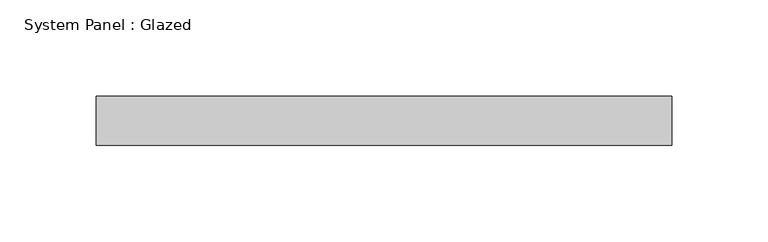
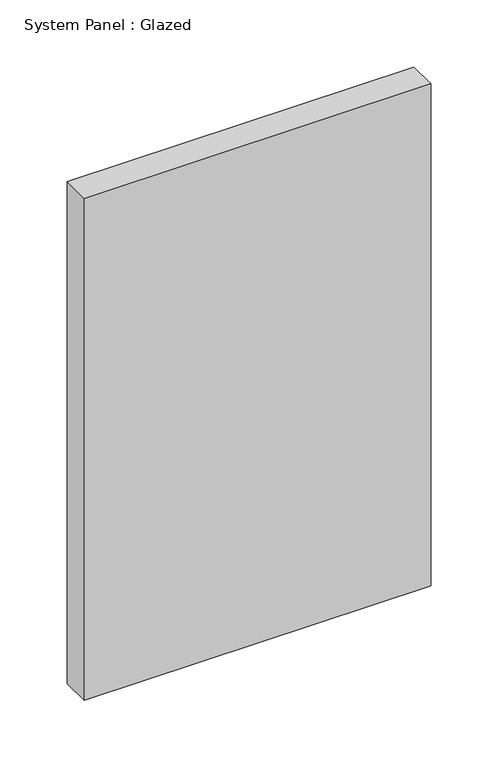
"""IFC4 building model written with IfcOpenShell, lengths in millimetres: plate geometry, System Panel : Glazed."""

import ifcopenshell
import ifcopenshell.guid

model = None  # the IFC model being written
_history = None  # IfcOwnerHistory: only IFC2X3 demands one
_inside = {}  # id of a spatial element -> (the spatial element, [elements in it])
_under = {}  # id of a project, library or spatial element -> (it, [spatial elements below it])
_declared = {}  # id of a project -> (the project, [libraries it declares])
_typed = {}  # id of a type object -> (the type object, [elements of that type])
_made_of = {}  # id of a material, layer set ... -> (it, [elements and type objects made of it])


def new_model(schema):
    """Start an empty IFC model of exactly this schema.

    Asked for "IFC4X3", IfcOpenShell would pick the latest addendum, in which some entities
    have other attributes; the version numbers below select the first issue.
    IFC2X3 requires an IfcOwnerHistory on every rooted entity: one is made here for all.
    """
    global model, _history
    if schema == "IFC4X3":
        model = ifcopenshell.file(schema_version=(4, 3, 0, 0))
    else:
        model = ifcopenshell.file(schema=schema)
    _inside.clear()
    _under.clear()
    _declared.clear()
    _typed.clear()
    _made_of.clear()
    _history = None
    if model.schema == "IFC2X3":
        org = make("IfcOrganization", Name="unknown")
        user = make(
            "IfcPersonAndOrganization",
            ThePerson=make("IfcPerson", FamilyName="unknown"),
            TheOrganization=org,
        )
        app = make(
            "IfcApplication",
            ApplicationDeveloper=org,
            Version="unknown",
            ApplicationFullName="unknown",
            ApplicationIdentifier="unknown",
        )
        _history = make(
            "IfcOwnerHistory",
            OwningUser=user,
            OwningApplication=app,
            ChangeAction="ADDED",
            CreationDate=0,
        )
    return model


def make(cls, **values):
    """One entity of the class cls with the attributes given. An attribute that is None is left unset."""
    return model.create_entity(
        cls, **{name: value for name, value in values.items() if value is not None}
    )


def rooted(cls, **values):
    """An entity with a GlobalId (a new one), such as an element, a storey or a relation."""
    return make(cls, GlobalId=ifcopenshell.guid.new(), OwnerHistory=_history, **values)


def si_unit(unit_type, name, prefix=None):
    """IfcSIUnit, for example si_unit("LENGTHUNIT", "METRE", prefix="MILLI")."""
    return make("IfcSIUnit", UnitType=unit_type, Prefix=prefix, Name=name)


def assignment(units):
    """IfcUnitAssignment: the units of a project."""
    return None if units is None else make("IfcUnitAssignment", Units=units)


def point(xyz):
    """IfcCartesianPoint."""
    return None if xyz is None else make("IfcCartesianPoint", Coordinates=xyz)


def direction(xyz):
    """IfcDirection."""
    return None if xyz is None else make("IfcDirection", DirectionRatios=xyz)


def frame(location, z_axis=None, x_axis=None):
    """IfcAxis2Placement3D, a coordinate frame: its origin and axes. An axis left out is left unset."""
    return make(
        "IfcAxis2Placement3D",
        Location=point(location),
        Axis=direction(z_axis),
        RefDirection=direction(x_axis),
    )


def origin():
    """The frame at (0, 0, 0) with its axes left unset."""
    return frame((0.0, 0.0, 0.0))


def origin_with_axes():
    """The frame at (0, 0, 0) with the z axis (0, 0, 1) and the x axis (1, 0, 0) written out."""
    return frame((0.0, 0.0, 0.0), z_axis=(0.0, 0.0, 1.0), x_axis=(1.0, 0.0, 0.0))


def place(relative_to, where):
    """IfcLocalPlacement: puts the frame where relative to a parent placement (None: the world)."""
    return make(
        "IfcLocalPlacement", PlacementRelTo=relative_to, RelativePlacement=where
    )


def context(
    kind, dimensions, precision=None, world=None, true_north=None, identifier=None
):
    """IfcGeometricRepresentationContext, for example the 3D "Model" context."""
    return make(
        "IfcGeometricRepresentationContext",
        ContextIdentifier=identifier,
        ContextType=kind,
        CoordinateSpaceDimension=dimensions,
        Precision=precision,
        WorldCoordinateSystem=world,
        TrueNorth=true_north,
    )


def project(units=None, contexts=None):
    """IfcProject with its units and contexts."""
    return rooted(
        "IfcProject",
        Name="project",
        RepresentationContexts=contexts,
        UnitsInContext=assignment(units),
    )


def spatial(cls, under=None, at=None, **own):
    """A site, building, storey or space (cls), placed at a placement, below another one or the project."""
    s = rooted(cls, ObjectPlacement=at, **own)
    if under is not None:
        _under.setdefault(under.id(), (under, []))[1].append(s)
    return s


def polyline(points):
    """IfcPolyline through the points."""
    return make("IfcPolyline", Points=[point(p) for p in points])


def outline(outer, holes=None, kind="AREA"):
    """IfcArbitraryClosedProfileDef: a profile drawn as a closed curve; with holes, ...WithVoids."""
    if holes is None:
        return make("IfcArbitraryClosedProfileDef", ProfileType=kind, OuterCurve=outer)
    return make(
        "IfcArbitraryProfileDefWithVoids",
        ProfileType=kind,
        OuterCurve=outer,
        InnerCurves=holes,
    )


def extrude(swept, where, along, depth):
    """IfcExtrudedAreaSolid: the profile swept, set in the frame where, extruded along a direction by depth."""
    return make(
        "IfcExtrudedAreaSolid",
        SweptArea=swept,
        Position=where,
        ExtrudedDirection=direction(along),
        Depth=depth,
    )


def shape(context_of_items, identifier, shape_type, items):
    """IfcShapeRepresentation: the items that make up one representation, for example the "Body"."""
    return make(
        "IfcShapeRepresentation",
        ContextOfItems=context_of_items,
        RepresentationIdentifier=identifier,
        RepresentationType=shape_type,
        Items=items,
    )


def source(mapping_origin, context_of_items, identifier, shape_type, items):
    """IfcRepresentationMap: a shape defined once, which mapped items show again and again."""
    return make(
        "IfcRepresentationMap",
        MappingOrigin=mapping_origin,
        MappedRepresentation=shape(context_of_items, identifier, shape_type, items),
    )


def transform(
    local_origin,
    x_axis=None,
    y_axis=None,
    z_axis=None,
    scale=None,
    scale2=None,
    scale3=None,
    uniform=True,
):
    """IfcCartesianTransformationOperator3D, or its non-uniform kind. x_axis, y_axis, z_axis: its Axis1, 2, 3."""
    if uniform:
        return make(
            "IfcCartesianTransformationOperator3D",
            Axis1=direction(x_axis),
            Axis2=direction(y_axis),
            LocalOrigin=point(local_origin),
            Scale=scale,
            Axis3=direction(z_axis),
        )
    return make(
        "IfcCartesianTransformationOperator3DnonUniform",
        Axis1=direction(x_axis),
        Axis2=direction(y_axis),
        LocalOrigin=point(local_origin),
        Scale=scale,
        Axis3=direction(z_axis),
        Scale2=scale2,
        Scale3=scale3,
    )


def mapped(mapping_source, mapping_target):
    """IfcMappedItem: shows the shape of a source again, moved by a transform."""
    return make(
        "IfcMappedItem", MappingSource=mapping_source, MappingTarget=mapping_target
    )


def made_of(thing, what):
    """Note that an element or type object is made of a material, layer set ...; save() writes the relation."""
    if what is not None:
        _made_of.setdefault(what.id(), (what, []))[1].append(thing)
    return thing


def element(
    cls,
    number,
    at=None,
    inside=None,
    cuts=None,
    type_object=None,
    material=None,
    context=None,
    identifier="Body",
    shape_type=None,
    held_by="IfcProductDefinitionShape",
    body=None,
    shapes=None,
    **own,
):
    """One element of the class cls, such as IfcWall. Its Tag is "e" and its number.

    at: its placement. inside: the storey or other place that contains it. cuts: it is an
    opening in that element (IfcRelVoidsElement). A single representation is given by context,
    identifier, shape_type and body (its items); several are given by shapes. held_by: the class
    of the entity that holds the representations. save() writes the other relations.
    """
    e = rooted(cls, Tag="e%d" % number, ObjectPlacement=at, **own)
    if body is not None:
        shapes = [shape(context, identifier, shape_type, body)]
    if shapes is not None:
        e.Representation = make(held_by, Representations=shapes)
    if inside is not None:
        _inside.setdefault(inside.id(), (inside, []))[1].append(e)
    if cuts is not None:
        rooted(
            "IfcRelVoidsElement", RelatingBuildingElement=cuts, RelatedOpeningElement=e
        )
    if type_object is not None:
        _typed.setdefault(type_object.id(), (type_object, []))[1].append(e)
    return made_of(e, material)


def aggregate(whole, parts):
    """IfcRelAggregates: a whole, such as a stair, and the parts it consists of."""
    return rooted("IfcRelAggregates", RelatingObject=whole, RelatedObjects=parts)


def save(model, path):
    """Write the relations noted so far, then the file.

    IfcRelAggregates (storeys below a building ...), IfcRelContainedInSpatialStructure (elements
    in a storey), IfcRelDefinesByType, IfcRelAssociatesMaterial and IfcRelDeclares: one each for
    every whole, place, type object, material and project.
    """
    for whole, parts in _under.values():
        aggregate(whole, parts)
    for where, things in _inside.values():
        rooted(
            "IfcRelContainedInSpatialStructure",
            RelatedElements=things,
            RelatingStructure=where,
        )
    for kind, things in _typed.values():
        rooted("IfcRelDefinesByType", RelatedObjects=things, RelatingType=kind)
    for what, things in _made_of.values():
        rooted("IfcRelAssociatesMaterial", RelatedObjects=things, RelatingMaterial=what)
    for by, libraries in _declared.values():
        rooted("IfcRelDeclares", RelatingContext=by, RelatedDefinitions=libraries)
    model.write(path)


def system_panel_glazed_cec7f4a6(model_context):
    return source(origin(), model_context, "Body", "SweptSolid", [
        extrude(outline(polyline([(149.2249998, 19.05), (-149.2249998, 19.05), (-149.2249998, 44.45), (149.2249998, 44.45), (149.2249998, 19.05)])), origin_with_axes(), (0.0, 0.0, 1.0), 457.2),
    ])


if __name__ == "__main__":
    model = new_model("IFC4")
    model_context = context("Model", 3, world=origin())
    ifc_project = project(units=[si_unit("LENGTHUNIT", "METRE", prefix="MILLI")], contexts=[model_context])
    site = spatial("IfcSite", under=ifc_project)
    building = spatial("IfcBuilding", under=site)
    placement = place(None, origin())
    system_panel_glazed_shape = system_panel_glazed_cec7f4a6(model_context)
    element("IfcPlate", 1, ObjectType="System Panel : Glazed", at=placement, inside=building, context=model_context, shape_type="MappedRepresentation", body=[
        mapped(system_panel_glazed_shape, transform((0.0, 0.0, 0.0), x_axis=(1.0, 0.0, 0.0), y_axis=(0.0, 1.0, 0.0), z_axis=(0.0, 0.0, 1.0))),
    ])
    save(model, "model.ifc")
